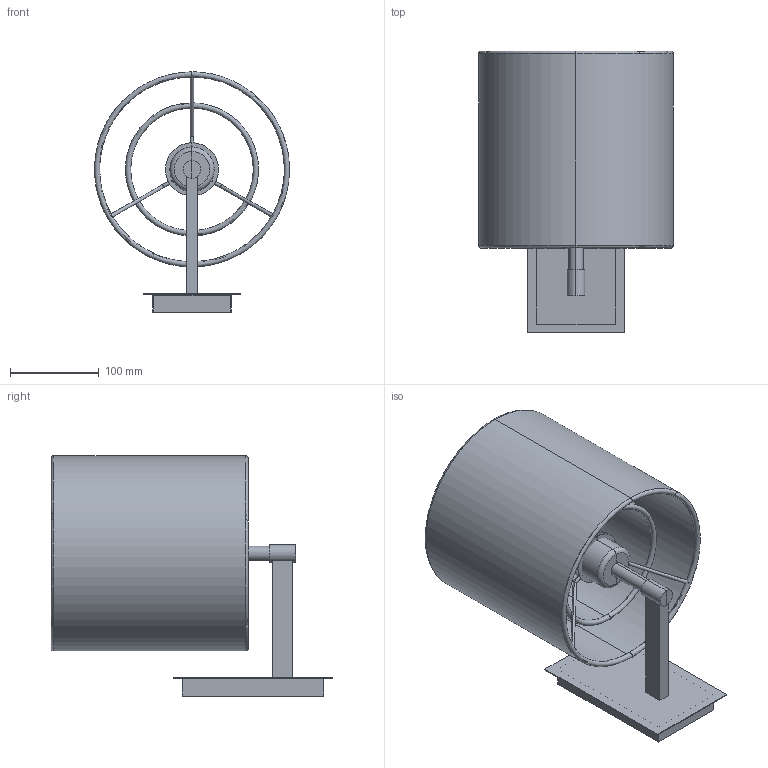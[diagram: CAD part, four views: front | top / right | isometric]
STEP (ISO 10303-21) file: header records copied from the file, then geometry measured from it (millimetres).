
FILE_DESCRIPTION(/* description */ (''),/* implementation_level */ '2;1');
FILE_NAME(/* name */ 'C:\Users\FrancoSartori\Documents\FARO\01_En Proceso\0_SABA\03_Publicación\68544.stp',/* time_stamp */ '2021-07-26T10:52:02+02:00',/* author */ ('FrancoSartori'),/* organization */ (''),/* preprocessor_version */ 'ST-DEVELOPER v18.1',/* originating_system */ 'AutoCAD Mechanical',/* authorisation */ '');
FILE_SCHEMA (('AUTOMOTIVE_DESIGN { 1 0 10303 214 3 1 1 }'));
Length unit declared in the file: millimetre
Products named in the file (2): Product; 68544_SABA - SABA-449274-Export
Assembly tree (1 placements, depth 2):
  Product
    68544_SABA - SABA-449274-Export
Bounding box: 219.9 x 317.55 x 271 mm (x, y, z)
Volume: 365436.6 mm3; surface area: 587018.5 mm2
Topology: 9 solids, 9 shells, 128 faces, 281 edges, 166 vertices
Faces by surface type: plane 58, cylinder 46, torus 20, cone 4
Entity records: 5889 total; most frequent: CARTESIAN_POINT 3046, DIRECTION 567, ORIENTED_EDGE 562, EDGE_CURVE 281, AXIS2_PLACEMENT_3D 209, VERTEX_POINT 166, LINE 149, VECTOR 149
